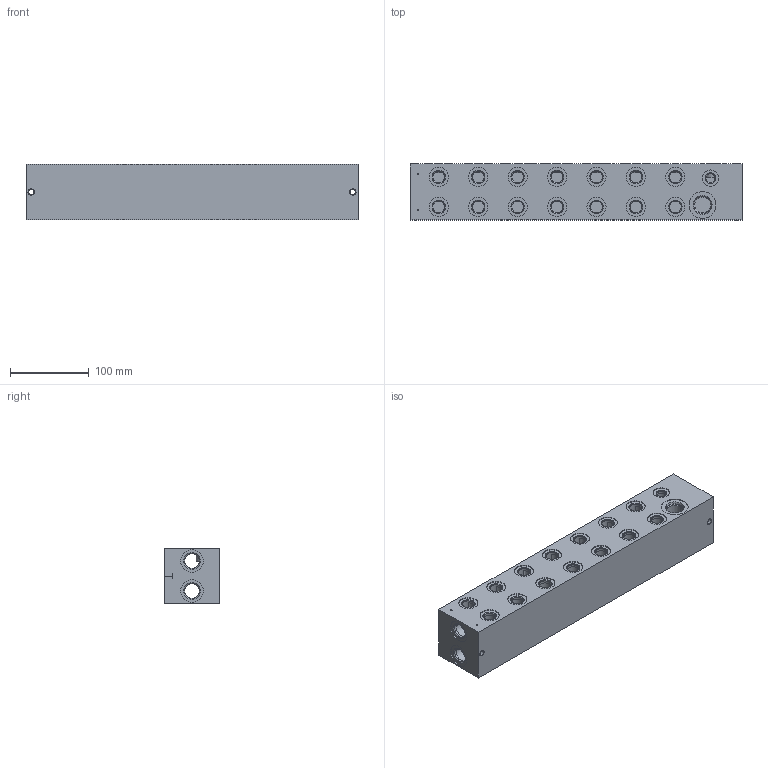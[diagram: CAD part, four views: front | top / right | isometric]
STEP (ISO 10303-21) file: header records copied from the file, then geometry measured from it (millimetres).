
FILE_DESCRIPTION((''),'2;1');
FILE_NAME('27564900','2015-11-27T',('Ahcz.brigadnik05'),(''),'PRO/ENGINEER BY PARAMETRIC TECHNOLOGY CORPORATION, 2015110','PRO/ENGINEER BY PARAMETRIC TECHNOLOGY CORPORATION, 2015110','');
FILE_SCHEMA(('AUTOMOTIVE_DESIGN { 1 0 10303 214 1 1 1 1 }'));
Length unit declared in the file: millimetre
Products named in the file (1): 27564900
Bounding box: 421 x 71 x 71 mm (x, y, z)
Volume: 686917.5 mm3; surface area: 262409.1 mm2
Topology: 1 solids, 56 shells, 482 faces, 1854 edges, 1830 vertices
Faces by surface type: cylinder 331, plane 92, cone 59
Entity records: 27418 total; most frequent: CARTESIAN_POINT 5706, DIRECTION 3470, ORIENTED_EDGE 2390, PRESENTATION_STYLE_ASSIGNMENT 1964, STYLED_ITEM 1964, CURVE_STYLE 1902, EDGE_CURVE 1305, AXIS2_PLACEMENT_3D 1242
